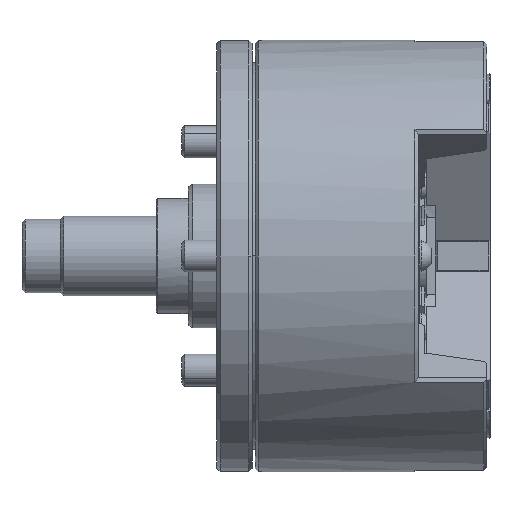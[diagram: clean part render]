
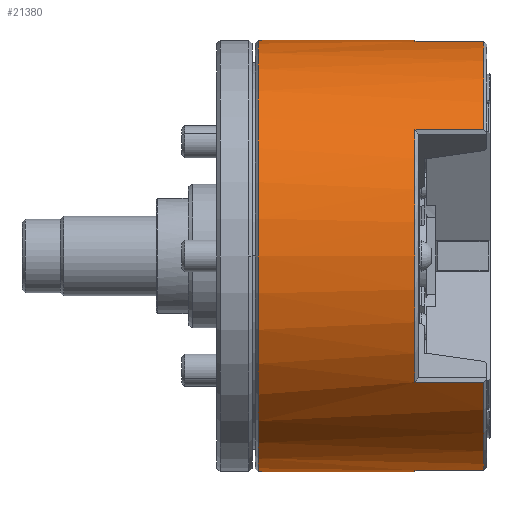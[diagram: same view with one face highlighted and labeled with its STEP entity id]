
A CAD part, front view. The second image highlights one B-rep face of the part: STEP entity #21380.
In plain terms, the highlighted cylindrical face has radius 67.5 mm (diameter 135 mm), a partial arc.
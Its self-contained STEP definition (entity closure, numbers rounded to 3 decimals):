
#419 = LINE ( 'NONE', #8736, #11852 ) ;
#718 = DIRECTION ( 'NONE',  ( 1., 0., 0. ) ) ;
#948 = FACE_OUTER_BOUND ( 'NONE', #11622, .T. ) ;
#1499 = CARTESIAN_POINT ( 'NONE',  ( 21., 0., 0. ) ) ;
#3760 = CARTESIAN_POINT ( 'NONE',  ( 21., 0., 0. ) ) ;
#4048 = DIRECTION ( 'NONE',  ( 0., 0., -1. ) ) ;
#4518 = CARTESIAN_POINT ( 'NONE',  ( -0.478, -54.717, 39.525 ) ) ;
#4617 = CARTESIAN_POINT ( 'NONE',  ( 21., -54.717, -39.525 ) ) ;
#5578 = VERTEX_POINT ( 'NONE', #20922 ) ;
#5847 = VECTOR ( 'NONE', #27805, 1000. ) ;
#5934 = VERTEX_POINT ( 'NONE', #10768 ) ;
#6127 = VERTEX_POINT ( 'NONE', #6576 ) ;
#6202 = DIRECTION ( 'NONE',  ( 0., 0., -1. ) ) ;
#6576 = CARTESIAN_POINT ( 'NONE',  ( 21., -6.871, 67.149 ) ) ;
#7151 = ORIENTED_EDGE ( 'NONE', *, *, #18214, .F. ) ;
#7237 = ORIENTED_EDGE ( 'NONE', *, *, #27553, .T. ) ;
#7434 = ORIENTED_EDGE ( 'NONE', *, *, #8384, .T. ) ;
#7686 = CIRCLE ( 'NONE', #9148, 67.5 ) ;
#7967 = EDGE_CURVE ( 'NONE', #20270, #23492, #22317, .T. ) ;
#8071 = DIRECTION ( 'NONE',  ( -1., 0., 0. ) ) ;
#8275 = ORIENTED_EDGE ( 'NONE', *, *, #20798, .T. ) ;
#8298 = VERTEX_POINT ( 'NONE', #20131 ) ;
#8384 = EDGE_CURVE ( 'NONE', #8298, #5934, #20036, .T. ) ;
#8585 = ORIENTED_EDGE ( 'NONE', *, *, #7967, .T. ) ;
#8710 = VERTEX_POINT ( 'NONE', #4518 ) ;
#8736 = CARTESIAN_POINT ( 'NONE',  ( 63.843, -54.717, 39.525 ) ) ;
#8995 = ORIENTED_EDGE ( 'NONE', *, *, #25865, .F. ) ;
#9148 = AXIS2_PLACEMENT_3D ( 'NONE', #27843, #27866, #26960 ) ;
#10095 = DIRECTION ( 'NONE',  ( 0., 0., 1. ) ) ;
#10147 = ORIENTED_EDGE ( 'NONE', *, *, #17511, .T. ) ;
#10171 = DIRECTION ( 'NONE',  ( -1., 0., 0. ) ) ;
#10214 = CARTESIAN_POINT ( 'NONE',  ( -0.478, 0., 0. ) ) ;
#10265 = CARTESIAN_POINT ( 'NONE',  ( 63.843, 0., 0. ) ) ;
#10390 = ORIENTED_EDGE ( 'NONE', *, *, #10714, .T. ) ;
#10579 = ORIENTED_EDGE ( 'NONE', *, *, #30003, .T. ) ;
#10714 = EDGE_CURVE ( 'NONE', #13525, #8710, #7686, .T. ) ;
#10768 = CARTESIAN_POINT ( 'NONE',  ( -0.478, 0., -67.5 ) ) ;
#11071 = CARTESIAN_POINT ( 'NONE',  ( -0.478, -6.871, -67.149 ) ) ;
#11088 = CARTESIAN_POINT ( 'NONE',  ( 63.843, -6.871, 67.149 ) ) ;
#11189 = DIRECTION ( 'NONE',  ( 1., 0., 0. ) ) ;
#11617 = ORIENTED_EDGE ( 'NONE', *, *, #23386, .F. ) ;
#11622 = EDGE_LOOP ( 'NONE', ( #7151, #7237, #7434, #8275, #8585, #8995, #10147, #10390, #10579, #11617, #11839, #11901 ) ) ;
#11839 = ORIENTED_EDGE ( 'NONE', *, *, #27820, .T. ) ;
#11852 = VECTOR ( 'NONE', #11189, 1000. ) ;
#11901 = ORIENTED_EDGE ( 'NONE', *, *, #20289, .T. ) ;
#13525 = VERTEX_POINT ( 'NONE', #21913 ) ;
#13694 = AXIS2_PLACEMENT_3D ( 'NONE', #15253, #718, #17682 ) ;
#13861 = CARTESIAN_POINT ( 'NONE',  ( 21., -6.871, -67.149 ) ) ;
#14005 = LINE ( 'NONE', #11088, #5847 ) ;
#14997 = AXIS2_PLACEMENT_3D ( 'NONE', #10214, #10171, #10095 ) ;
#15069 = DIRECTION ( 'NONE',  ( 1., 0., 0. ) ) ;
#15253 = CARTESIAN_POINT ( 'NONE',  ( -49.5, 0., 0. ) ) ;
#15278 = VERTEX_POINT ( 'NONE', #28810 ) ;
#16759 = DIRECTION ( 'NONE',  ( 1., 0., 0. ) ) ;
#16838 = CIRCLE ( 'NONE', #13694, 67.5 ) ;
#17262 = CARTESIAN_POINT ( 'NONE',  ( 63.843, 0., -67.5 ) ) ;
#17298 = CARTESIAN_POINT ( 'NONE',  ( 21., -54.717, 39.525 ) ) ;
#17511 = EDGE_CURVE ( 'NONE', #19158, #13525, #19423, .T. ) ;
#17621 = CIRCLE ( 'NONE', #17695, 67.5 ) ;
#17682 = DIRECTION ( 'NONE',  ( 0., 0., -1. ) ) ;
#17695 = AXIS2_PLACEMENT_3D ( 'NONE', #1499, #18401, #4048 ) ;
#18038 = AXIS2_PLACEMENT_3D ( 'NONE', #10265, #15069, #22199 ) ;
#18214 = EDGE_CURVE ( 'NONE', #15278, #20715, #27932, .T. ) ;
#18401 = DIRECTION ( 'NONE',  ( 1., 0., 0. ) ) ;
#18704 = VECTOR ( 'NONE', #22293, 1000. ) ;
#19158 = VERTEX_POINT ( 'NONE', #4617 ) ;
#19423 = LINE ( 'NONE', #24638, #25334 ) ;
#19913 = VECTOR ( 'NONE', #16759, 1000. ) ;
#20036 = LINE ( 'NONE', #17262, #19913 ) ;
#20131 = CARTESIAN_POINT ( 'NONE',  ( -49.5, 0., -67.5 ) ) ;
#20270 = VERTEX_POINT ( 'NONE', #11071 ) ;
#20289 = EDGE_CURVE ( 'NONE', #5578, #20715, #25098, .T. ) ;
#20507 = DIRECTION ( 'NONE',  ( 1., 0., 0. ) ) ;
#20715 = VERTEX_POINT ( 'NONE', #29221 ) ;
#20798 = EDGE_CURVE ( 'NONE', #5934, #20270, #22196, .T. ) ;
#20922 = CARTESIAN_POINT ( 'NONE',  ( -0.478, -6.871, 67.149 ) ) ;
#21380 = ADVANCED_FACE ( 'NONE', ( #948 ), #25384, .T. ) ;
#21777 = VECTOR ( 'NONE', #27681, 1000. ) ;
#21913 = CARTESIAN_POINT ( 'NONE',  ( -0.478, -54.717, -39.525 ) ) ;
#22190 = CARTESIAN_POINT ( 'NONE',  ( 63.843, 0., 67.5 ) ) ;
#22196 = CIRCLE ( 'NONE', #30272, 67.5 ) ;
#22199 = DIRECTION ( 'NONE',  ( 0., 0., -1. ) ) ;
#22293 = DIRECTION ( 'NONE',  ( 1., 0., 0. ) ) ;
#22317 = LINE ( 'NONE', #27778, #21777 ) ;
#22433 = CARTESIAN_POINT ( 'NONE',  ( -0.478, 0., 0. ) ) ;
#23386 = EDGE_CURVE ( 'NONE', #6127, #24174, #17621, .T. ) ;
#23492 = VERTEX_POINT ( 'NONE', #13861 ) ;
#24174 = VERTEX_POINT ( 'NONE', #17298 ) ;
#24482 = DIRECTION ( 'NONE',  ( -1., 0., 0. ) ) ;
#24638 = CARTESIAN_POINT ( 'NONE',  ( 63.843, -54.717, -39.525 ) ) ;
#24837 = DIRECTION ( 'NONE',  ( 0., 0., 1. ) ) ;
#25098 = CIRCLE ( 'NONE', #14997, 67.5 ) ;
#25334 = VECTOR ( 'NONE', #24482, 1000. ) ;
#25384 = CYLINDRICAL_SURFACE ( 'NONE', #18038, 67.5 ) ;
#25865 = EDGE_CURVE ( 'NONE', #19158, #23492, #29935, .T. ) ;
#26960 = DIRECTION ( 'NONE',  ( 0., 0., 1. ) ) ;
#27553 = EDGE_CURVE ( 'NONE', #15278, #8298, #16838, .T. ) ;
#27681 = DIRECTION ( 'NONE',  ( 1., 0., 0. ) ) ;
#27778 = CARTESIAN_POINT ( 'NONE',  ( 63.843, -6.871, -67.149 ) ) ;
#27805 = DIRECTION ( 'NONE',  ( -1., 0., 0. ) ) ;
#27820 = EDGE_CURVE ( 'NONE', #6127, #5578, #14005, .T. ) ;
#27843 = CARTESIAN_POINT ( 'NONE',  ( -0.478, 0., 0. ) ) ;
#27866 = DIRECTION ( 'NONE',  ( -1., 0., 0. ) ) ;
#27932 = LINE ( 'NONE', #22190, #18704 ) ;
#28810 = CARTESIAN_POINT ( 'NONE',  ( -49.5, 0., 67.5 ) ) ;
#29221 = CARTESIAN_POINT ( 'NONE',  ( -0.478, 0., 67.5 ) ) ;
#29423 = AXIS2_PLACEMENT_3D ( 'NONE', #3760, #20507, #6202 ) ;
#29935 = CIRCLE ( 'NONE', #29423, 67.5 ) ;
#30003 = EDGE_CURVE ( 'NONE', #8710, #24174, #419, .T. ) ;
#30272 = AXIS2_PLACEMENT_3D ( 'NONE', #22433, #8071, #24837 ) ;
